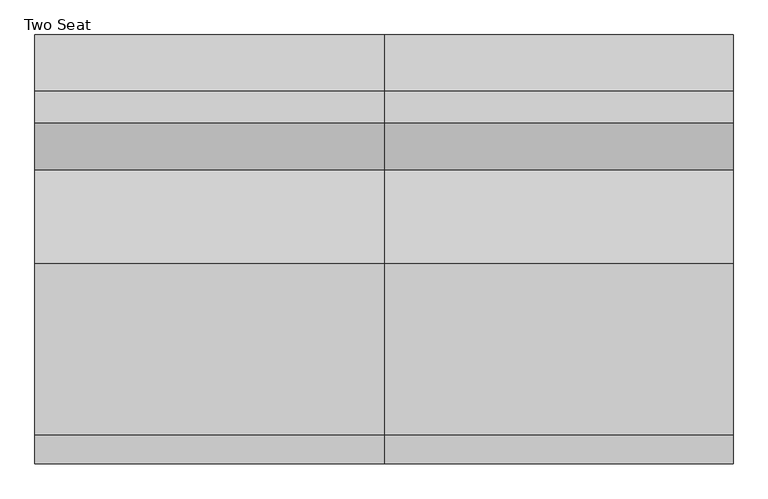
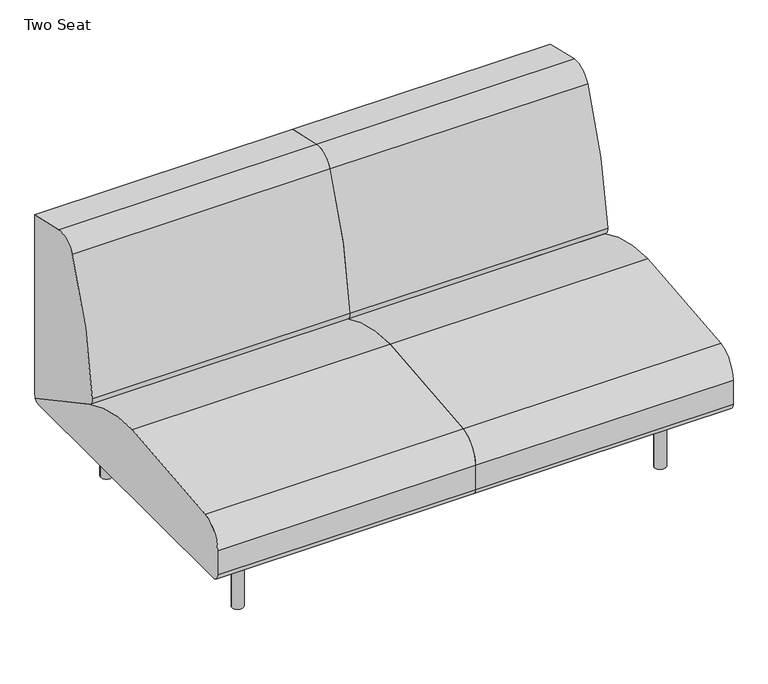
"""IFC4 building model written with IfcOpenShell, lengths in millimetres: furniture geometry, Coalesse_AM_Seating_LoungeChair_Sistema_LegBase_TwoSeat : Two Seat."""

from ifc_helpers import new_model, si_unit, point, frame, frame_2d, origin, origin_with_axes, place, context, project, spatial, polyline, circle_curve, trimmed, segment, composite_curve, outline, extrude, source, transform, mapped, element, save


def two_seat_2878f85a(model_context):
    return source(origin(), model_context, "Body", "SweptSolid", [
        extrude(outline(composite_curve([segment(trimmed(circle_curve(frame_2d((989.1765227, 335.9943389)), 6.096), [point((995.2725227, 335.9943389))], [point((983.0805227, 335.9943389))], False, "CARTESIAN"), True, "CONTINUOUS"), segment(trimmed(circle_curve(frame_2d((989.1765227, 335.9943389)), 6.096), [point((983.0805227, 335.9943389))], [point((995.2725227, 335.9943389))], False, "CARTESIAN"), True, "CONTINUOUS")], self_intersect=False)), origin_with_axes(), (0.0, 0.0, 1.0), 4.3662291),
        extrude(outline(composite_curve([segment(trimmed(circle_curve(frame_2d((989.1765227, -327.2630889)), 6.096), [point((995.2725227, -327.2630889))], [point((983.0805227, -327.2630889))], False, "CARTESIAN"), True, "CONTINUOUS"), segment(trimmed(circle_curve(frame_2d((989.1765227, -327.2630889)), 6.096), [point((983.0805227, -327.2630889))], [point((995.2725227, -327.2630889))], False, "CARTESIAN"), True, "CONTINUOUS")], self_intersect=False)), origin_with_axes(), (0.0, 0.0, 1.0), 4.3662291),
        extrude(outline(composite_curve([segment(polyline([(157.0399209, 1001.756375), (201.7356243, 1001.756375)]), True, "CONTINUOUS"), segment(trimmed(circle_curve(frame_2d((201.7356243, 998.708375)), 3.048), [point((201.7356243, 1001.756375))], [point((204.7836243, 998.708375))], False, "CARTESIAN"), True, "CONTINUOUS"), segment(polyline([(204.7836243, 998.708375), (204.7836243, 979.366199)]), True, "CONTINUOUS"), segment(trimmed(circle_curve(frame_2d((201.7356243, 979.366199)), 3.048), [point((204.7836243, 979.366199))], [point((201.7356243, 976.318199))], False, "CARTESIAN"), True, "CONTINUOUS"), segment(polyline([(201.7356243, 976.318199), (157.1249936, 976.318199)]), True, "CONTINUOUS"), segment(trimmed(circle_curve(frame_2d((157.1249936, 979.4512718)), 3.1330728), [point((157.1249936, 976.318199))], [point((153.9919209, 979.4512718))], False, "CARTESIAN"), True, "CONTINUOUS"), segment(polyline([(153.9919209, 979.4512718), (153.9919209, 998.708375)]), True, "CONTINUOUS"), segment(trimmed(circle_curve(frame_2d((157.0399209, 998.708375)), 3.048), [point((153.9919209, 998.708375))], [point((157.0399209, 1001.756375))], False, "CARTESIAN"), True, "CONTINUOUS")], self_intersect=False)), frame((0.0, 222.3519802, 0.0), z_axis=(0.0, 1.0, 0.0), x_axis=(0.0, 0.0, 1.0)), (0.0, 0.0, 1.0), 92.6273161),
        extrude(outline(composite_curve([segment(polyline([(157.0399209, 1001.756375), (201.7356243, 1001.756375)]), True, "CONTINUOUS"), segment(trimmed(circle_curve(frame_2d((201.7356243, 998.708375)), 3.048), [point((201.7356243, 1001.756375))], [point((204.7836243, 998.708375))], False, "CARTESIAN"), True, "CONTINUOUS"), segment(polyline([(204.7836243, 998.708375), (204.7836243, 979.366199)]), True, "CONTINUOUS"), segment(trimmed(circle_curve(frame_2d((201.7356243, 979.366199)), 3.048), [point((204.7836243, 979.366199))], [point((201.7356243, 976.318199))], False, "CARTESIAN"), True, "CONTINUOUS"), segment(polyline([(201.7356243, 976.318199), (157.1249936, 976.318199)]), True, "CONTINUOUS"), segment(trimmed(circle_curve(frame_2d((157.1249936, 979.4512718)), 3.1330728), [point((157.1249936, 976.318199))], [point((153.9919209, 979.4512718))], False, "CARTESIAN"), True, "CONTINUOUS"), segment(polyline([(153.9919209, 979.4512718), (153.9919209, 998.708375)]), True, "CONTINUOUS"), segment(trimmed(circle_curve(frame_2d((157.0399209, 998.708375)), 3.048), [point((153.9919209, 998.708375))], [point((157.0399209, 1001.756375))], False, "CARTESIAN"), True, "CONTINUOUS")], self_intersect=False)), frame((0.0, -314.9792963, 0.0), z_axis=(0.0, 1.0, 0.0), x_axis=(0.0, 0.0, 1.0)), (0.0, 0.0, 1.0), 92.6273161),
        extrude(outline(composite_curve([segment(trimmed(circle_curve(frame_2d((176.3356606, 966.5259944)), 3.048), [point((179.3836606, 966.5259944))], [point((176.3356606, 963.4779944))], False, "CARTESIAN"), True, "CONTINUOUS"), segment(polyline([(176.3356606, 963.4779944), (157.0399209, 963.4779944)]), True, "CONTINUOUS"), segment(trimmed(circle_curve(frame_2d((157.0399209, 966.5259944)), 3.048), [point((157.0399209, 963.4779944))], [point((153.9919209, 966.5259944))], False, "CARTESIAN"), True, "CONTINUOUS"), segment(polyline([(153.9919209, 966.5259944), (153.9919209, 1011.2135501)]), True, "CONTINUOUS"), segment(trimmed(circle_curve(frame_2d((157.056462, 1011.2135501)), 3.0645412), [point((153.9919209, 1011.2135501))], [point((157.056462, 1014.2780913))], False, "CARTESIAN"), True, "CONTINUOUS"), segment(polyline([(157.056462, 1014.2780913), (176.3356606, 1014.2780913)]), True, "CONTINUOUS"), segment(trimmed(circle_curve(frame_2d((176.3356606, 1011.2300913)), 3.048), [point((176.3356606, 1014.2780913))], [point((179.3836606, 1011.2300913))], False, "CARTESIAN"), True, "CONTINUOUS"), segment(polyline([(179.3836606, 1011.2300913), (179.3836606, 966.5259944)]), True, "CONTINUOUS")], self_intersect=False)), frame((0.0, -222.3519802, 0.0), z_axis=(0.0, 1.0, 0.0), x_axis=(0.0, 0.0, 1.0)), (0.0, 0.0, 1.0), 444.7039604),
        extrude(outline(composite_curve([segment(trimmed(circle_curve(frame_2d((989.1765227, 332.3095741)), 16.51), [point((1005.6865227, 332.3095741))], [point((972.6665227, 332.3095741))], False, "CARTESIAN"), True, "CONTINUOUS"), segment(trimmed(circle_curve(frame_2d((989.1765227, 332.3095741)), 16.51), [point((972.6665227, 332.3095741))], [point((1005.6865227, 332.3095741))], False, "CARTESIAN"), True, "CONTINUOUS")], self_intersect=False)), frame((0.0, 0.0, 4.3662291), z_axis=(0.0, 0.0, 1.0), x_axis=(1.0, 0.0, 0.0)), (0.0, 0.0, 1.0), 200.1037709),
        extrude(outline(composite_curve([segment(trimmed(circle_curve(frame_2d((988.7796477, -327.5470741)), 16.51), [point((1005.2896477, -327.5470741))], [point((972.2696477, -327.5470741))], False, "CARTESIAN"), True, "CONTINUOUS"), segment(trimmed(circle_curve(frame_2d((988.7796477, -327.5470741)), 16.51), [point((972.2696477, -327.5470741))], [point((1005.2896477, -327.5470741))], False, "CARTESIAN"), True, "CONTINUOUS")], self_intersect=False)), frame((0.0, 0.0, 4.3662291), z_axis=(0.0, 0.0, 1.0), x_axis=(1.0, 0.0, 0.0)), (0.0, 0.0, 1.0), 200.1037709),
        extrude(outline(composite_curve([segment(polyline([(459.4795619, 775.8234697), (459.4795619, 228.1929806)]), True, "CONTINUOUS"), segment(trimmed(circle_curve(frame_2d((191.495971, 228.1929806)), 267.983591), [point((459.4795619, 228.1929806))], [point((458.9860775, 211.937276))], False, "CARTESIAN"), True, "CONTINUOUS"), segment(polyline([(458.9860775, 211.937276), (183.8457951, 360.6719742)]), True, "CONTINUOUS"), segment(trimmed(circle_curve(frame_2d((195.9245701, 383.0161724)), 25.4), [point((183.8457951, 360.6719742))], [point((170.6161698, 385.1713698))], False, "CARTESIAN"), True, "CONTINUOUS"), segment(trimmed(circle_curve(frame_2d((1327.5544182, 286.6495247)), 1161.1256023), [point((170.6161698, 385.1713698))], [point((271.1088001, 768.4537592))], False, "CARTESIAN"), True, "CONTINUOUS"), segment(trimmed(circle_curve(frame_2d((326.5730192, 743.158661)), 60.96), [point((271.1088001, 768.4537592))], [point((339.9143278, 802.6408523))], False, "CARTESIAN"), True, "CONTINUOUS"), segment(polyline([(339.9143278, 802.6408523), (459.4795619, 775.8234697)]), True, "CONTINUOUS")], self_intersect=False)), frame((-374.8034773, 0.0, 0.0), z_axis=(1.0, 0.0, 0.0), x_axis=(0.0, 1.0, 0.0)), (0.0, 0.0, 1.0), 749.3),
        extrude(outline(composite_curve([segment(trimmed(circle_curve(frame_2d((-438.9184381, 226.822)), 22.352), [point((-438.9184381, 204.47))], [point((-461.2704381, 226.822))], False, "CARTESIAN"), True, "CONTINUOUS"), segment(polyline([(-461.2704381, 226.822), (-461.2704381, 301.4421993)]), True, "CONTINUOUS"), segment(trimmed(circle_curve(frame_2d((-385.0704381, 301.4421993)), 76.2), [point((-461.2704381, 301.4421993))], [point((-398.9277015, 376.3716077))], False, "CARTESIAN"), True, "CONTINUOUS"), segment(trimmed(circle_curve(frame_2d((2.2103559, -1792.6740646)), 2205.8265729), [point((-398.9277015, 376.3716077))], [point((-31.1968175, 412.8995185))], False, "CARTESIAN"), True, "CONTINUOUS"), segment(trimmed(circle_curve(frame_2d((-24.5128424, -28.3829182)), 441.333054), [point((-31.1968175, 412.8995185))], [point((184.5757008, 360.2774035))], False, "CARTESIAN"), True, "CONTINUOUS"), segment(polyline([(184.5757008, 360.2774035), (458.9860775, 211.937276)]), True, "CONTINUOUS"), segment(trimmed(circle_curve(frame_2d((442.3266309, 226.7871991)), 22.3171991), [point((458.9860775, 211.937276))], [point((442.3266309, 204.47))], False, "CARTESIAN"), True, "CONTINUOUS"), segment(polyline([(442.3266309, 204.47), (-438.9184381, 204.47)]), True, "CONTINUOUS")], self_intersect=False)), frame((-374.8034773, 0.0, 0.0), z_axis=(1.0, 0.0, 0.0), x_axis=(0.0, 1.0, 0.0)), (0.0, 0.0, 1.0), 749.3),
        extrude(outline(composite_curve([segment(polyline([(459.4795619, 775.8234697), (459.4795619, 228.1929806)]), True, "CONTINUOUS"), segment(trimmed(circle_curve(frame_2d((191.495971, 228.1929806)), 267.983591), [point((459.4795619, 228.1929806))], [point((458.9860775, 211.937276))], False, "CARTESIAN"), True, "CONTINUOUS"), segment(polyline([(458.9860775, 211.937276), (183.8457951, 360.6719742)]), True, "CONTINUOUS"), segment(trimmed(circle_curve(frame_2d((195.9245701, 383.0161724)), 25.4), [point((183.8457951, 360.6719742))], [point((170.6161698, 385.1713698))], False, "CARTESIAN"), True, "CONTINUOUS"), segment(trimmed(circle_curve(frame_2d((1327.5544182, 286.6495247)), 1161.1256023), [point((170.6161698, 385.1713698))], [point((271.1088001, 768.4537592))], False, "CARTESIAN"), True, "CONTINUOUS"), segment(trimmed(circle_curve(frame_2d((326.5730192, 743.158661)), 60.96), [point((271.1088001, 768.4537592))], [point((339.9143278, 802.6408523))], False, "CARTESIAN"), True, "CONTINUOUS"), segment(polyline([(339.9143278, 802.6408523), (459.4795619, 775.8234697)]), True, "CONTINUOUS")], self_intersect=False)), frame((374.4965227, 0.0, 0.0), z_axis=(1.0, 0.0, 0.0), x_axis=(0.0, 1.0, 0.0)), (0.0, 0.0, 1.0), 749.3),
        extrude(outline(composite_curve([segment(trimmed(circle_curve(frame_2d((-438.9184381, 226.822)), 22.352), [point((-438.9184381, 204.47))], [point((-461.2704381, 226.822))], False, "CARTESIAN"), True, "CONTINUOUS"), segment(polyline([(-461.2704381, 226.822), (-461.2704381, 301.4421993)]), True, "CONTINUOUS"), segment(trimmed(circle_curve(frame_2d((-385.0704381, 301.4421993)), 76.2), [point((-461.2704381, 301.4421993))], [point((-398.9277015, 376.3716077))], False, "CARTESIAN"), True, "CONTINUOUS"), segment(trimmed(circle_curve(frame_2d((2.2103559, -1792.6740646)), 2205.8265729), [point((-398.9277015, 376.3716077))], [point((-31.1968175, 412.8995185))], False, "CARTESIAN"), True, "CONTINUOUS"), segment(trimmed(circle_curve(frame_2d((-24.5128424, -28.3829182)), 441.333054), [point((-31.1968175, 412.8995185))], [point((184.5757008, 360.2774035))], False, "CARTESIAN"), True, "CONTINUOUS"), segment(polyline([(184.5757008, 360.2774035), (458.9860775, 211.937276)]), True, "CONTINUOUS"), segment(trimmed(circle_curve(frame_2d((442.3266309, 226.7871991)), 22.3171991), [point((458.9860775, 211.937276))], [point((442.3266309, 204.47))], False, "CARTESIAN"), True, "CONTINUOUS"), segment(polyline([(442.3266309, 204.47), (-438.9184381, 204.47)]), True, "CONTINUOUS")], self_intersect=False)), frame((374.4965227, 0.0, 0.0), z_axis=(1.0, 0.0, 0.0), x_axis=(0.0, 1.0, 0.0)), (0.0, 0.0, 1.0), 749.3),
        extrude(outline(composite_curve([segment(trimmed(circle_curve(frame_2d((-240.1834773, 335.9943389)), 6.096), [point((-246.2794773, 335.9943389))], [point((-234.0874773, 335.9943389))], False, "CARTESIAN"), True, "CONTINUOUS"), segment(trimmed(circle_curve(frame_2d((-240.1834773, 335.9943389)), 6.096), [point((-234.0874773, 335.9943389))], [point((-246.2794773, 335.9943389))], False, "CARTESIAN"), True, "CONTINUOUS")], self_intersect=False)), origin_with_axes(), (0.0, 0.0, 1.0), 4.3662291),
        extrude(outline(composite_curve([segment(trimmed(circle_curve(frame_2d((-240.1834773, -327.2630889)), 6.096), [point((-246.2794773, -327.2630889))], [point((-234.0874773, -327.2630889))], False, "CARTESIAN"), True, "CONTINUOUS"), segment(trimmed(circle_curve(frame_2d((-240.1834773, -327.2630889)), 6.096), [point((-234.0874773, -327.2630889))], [point((-246.2794773, -327.2630889))], False, "CARTESIAN"), True, "CONTINUOUS")], self_intersect=False)), origin_with_axes(), (0.0, 0.0, 1.0), 4.3662291),
        extrude(outline(composite_curve([segment(trimmed(circle_curve(frame_2d((157.0399209, -249.7153296)), 3.048), [point((157.0399209, -252.7633296))], [point((153.9919209, -249.7153296))], False, "CARTESIAN"), True, "CONTINUOUS"), segment(polyline([(153.9919209, -249.7153296), (153.9919209, -230.4582264)]), True, "CONTINUOUS"), segment(trimmed(circle_curve(frame_2d((157.1249936, -230.4582264)), 3.1330728), [point((153.9919209, -230.4582264))], [point((157.1249936, -227.3251537))], False, "CARTESIAN"), True, "CONTINUOUS"), segment(polyline([(157.1249936, -227.3251537), (201.7356243, -227.3251537)]), True, "CONTINUOUS"), segment(trimmed(circle_curve(frame_2d((201.7356243, -230.3731537)), 3.048), [point((201.7356243, -227.3251537))], [point((204.7836243, -230.3731537))], False, "CARTESIAN"), True, "CONTINUOUS"), segment(polyline([(204.7836243, -230.3731537), (204.7836243, -249.7153296)]), True, "CONTINUOUS"), segment(trimmed(circle_curve(frame_2d((201.7356243, -249.7153296)), 3.048), [point((204.7836243, -249.7153296))], [point((201.7356243, -252.7633296))], False, "CARTESIAN"), True, "CONTINUOUS"), segment(polyline([(201.7356243, -252.7633296), (157.0399209, -252.7633296)]), True, "CONTINUOUS")], self_intersect=False)), frame((0.0, 222.3519802, 0.0), z_axis=(0.0, 1.0, 0.0), x_axis=(0.0, 0.0, 1.0)), (0.0, 0.0, 1.0), 92.6273161),
        extrude(outline(composite_curve([segment(trimmed(circle_curve(frame_2d((157.0399209, -249.7153296)), 3.048), [point((157.0399209, -252.7633296))], [point((153.9919209, -249.7153296))], False, "CARTESIAN"), True, "CONTINUOUS"), segment(polyline([(153.9919209, -249.7153296), (153.9919209, -230.4582264)]), True, "CONTINUOUS"), segment(trimmed(circle_curve(frame_2d((157.1249936, -230.4582264)), 3.1330728), [point((153.9919209, -230.4582264))], [point((157.1249936, -227.3251537))], False, "CARTESIAN"), True, "CONTINUOUS"), segment(polyline([(157.1249936, -227.3251537), (201.7356243, -227.3251537)]), True, "CONTINUOUS"), segment(trimmed(circle_curve(frame_2d((201.7356243, -230.3731537)), 3.048), [point((201.7356243, -227.3251537))], [point((204.7836243, -230.3731537))], False, "CARTESIAN"), True, "CONTINUOUS"), segment(polyline([(204.7836243, -230.3731537), (204.7836243, -249.7153296)]), True, "CONTINUOUS"), segment(trimmed(circle_curve(frame_2d((201.7356243, -249.7153296)), 3.048), [point((204.7836243, -249.7153296))], [point((201.7356243, -252.7633296))], False, "CARTESIAN"), True, "CONTINUOUS"), segment(polyline([(201.7356243, -252.7633296), (157.0399209, -252.7633296)]), True, "CONTINUOUS")], self_intersect=False)), frame((0.0, -314.9792963, 0.0), z_axis=(0.0, 1.0, 0.0), x_axis=(0.0, 0.0, 1.0)), (0.0, 0.0, 1.0), 92.6273161),
        extrude(outline(composite_curve([segment(polyline([(179.3836606, -217.532949), (179.3836606, -262.2370459)]), True, "CONTINUOUS"), segment(trimmed(circle_curve(frame_2d((176.3356606, -262.2370459)), 3.048), [point((179.3836606, -262.2370459))], [point((176.3356606, -265.2850459))], False, "CARTESIAN"), True, "CONTINUOUS"), segment(polyline([(176.3356606, -265.2850459), (157.056462, -265.2850459)]), True, "CONTINUOUS"), segment(trimmed(circle_curve(frame_2d((157.056462, -262.2205047)), 3.0645412), [point((157.056462, -265.2850459))], [point((153.9919209, -262.2205047))], False, "CARTESIAN"), True, "CONTINUOUS"), segment(polyline([(153.9919209, -262.2205047), (153.9919209, -217.532949)]), True, "CONTINUOUS"), segment(trimmed(circle_curve(frame_2d((157.0399209, -217.532949)), 3.048), [point((153.9919209, -217.532949))], [point((157.0399209, -214.484949))], False, "CARTESIAN"), True, "CONTINUOUS"), segment(polyline([(157.0399209, -214.484949), (176.3356606, -214.484949)]), True, "CONTINUOUS"), segment(trimmed(circle_curve(frame_2d((176.3356606, -217.532949)), 3.048), [point((176.3356606, -214.484949))], [point((179.3836606, -217.532949))], False, "CARTESIAN"), True, "CONTINUOUS")], self_intersect=False)), frame((0.0, -222.3519802, 0.0), z_axis=(0.0, 1.0, 0.0), x_axis=(0.0, 0.0, 1.0)), (0.0, 0.0, 1.0), 444.7039604),
        extrude(outline(composite_curve([segment(trimmed(circle_curve(frame_2d((-240.1834773, 332.3095741)), 16.51), [point((-256.6934773, 332.3095741))], [point((-223.6734773, 332.3095741))], False, "CARTESIAN"), True, "CONTINUOUS"), segment(trimmed(circle_curve(frame_2d((-240.1834773, 332.3095741)), 16.51), [point((-223.6734773, 332.3095741))], [point((-256.6934773, 332.3095741))], False, "CARTESIAN"), True, "CONTINUOUS")], self_intersect=False)), frame((0.0, 0.0, 4.3662291), z_axis=(0.0, 0.0, 1.0), x_axis=(1.0, 0.0, 0.0)), (0.0, 0.0, 1.0), 200.1037709),
        extrude(outline(composite_curve([segment(trimmed(circle_curve(frame_2d((-239.7866023, -327.5470741)), 16.51), [point((-256.2966023, -327.5470741))], [point((-223.2766023, -327.5470741))], False, "CARTESIAN"), True, "CONTINUOUS"), segment(trimmed(circle_curve(frame_2d((-239.7866023, -327.5470741)), 16.51), [point((-223.2766023, -327.5470741))], [point((-256.2966023, -327.5470741))], False, "CARTESIAN"), True, "CONTINUOUS")], self_intersect=False)), frame((0.0, 0.0, 4.3662291), z_axis=(0.0, 0.0, 1.0), x_axis=(1.0, 0.0, 0.0)), (0.0, 0.0, 1.0), 200.1037709),
    ])


if __name__ == "__main__":
    model = new_model("IFC4")
    model_context = context("Model", 3, world=origin())
    ifc_project = project(units=[si_unit("LENGTHUNIT", "METRE", prefix="MILLI")], contexts=[model_context])
    site = spatial("IfcSite", under=ifc_project)
    building = spatial("IfcBuilding", under=site)
    placement = place(None, origin())
    two_seat_shape = two_seat_2878f85a(model_context)
    element("IfcFurniture", 1, ObjectType="Coalesse_AM_Seating_LoungeChair_Sistema_LegBase_TwoSeat : Two Seat", at=placement, inside=building, context=model_context, shape_type="MappedRepresentation", body=[
        mapped(two_seat_shape, transform((0.0, 0.0, 0.0), x_axis=(1.0, 0.0, 0.0), y_axis=(0.0, 1.0, 0.0), z_axis=(0.0, 0.0, 1.0))),
    ])
    save(model, "model.ifc")
